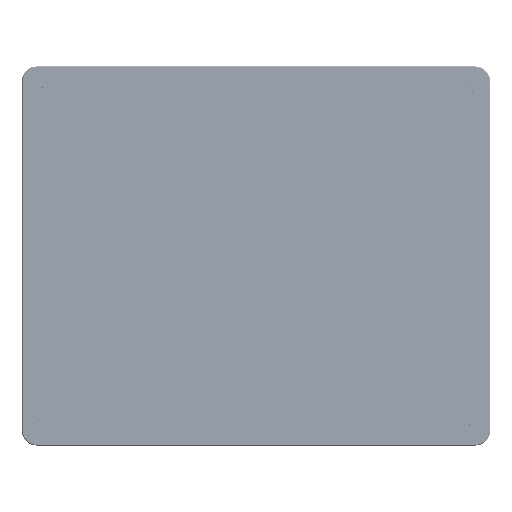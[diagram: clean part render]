
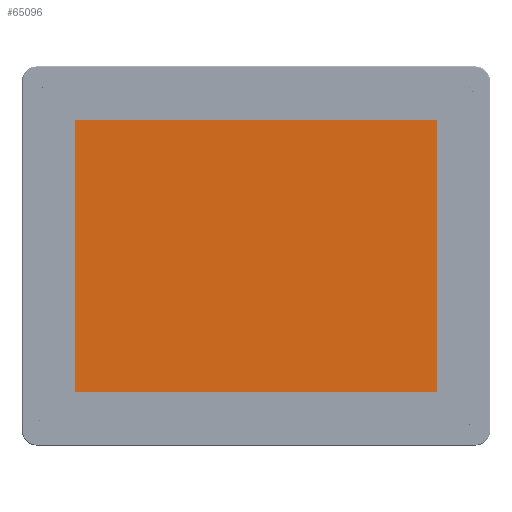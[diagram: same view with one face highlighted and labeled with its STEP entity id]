
A CAD part, top view. The second image highlights one B-rep face of the part: STEP entity #65096.
In plain terms, the highlighted planar face has unit normal (0, 0, 1).
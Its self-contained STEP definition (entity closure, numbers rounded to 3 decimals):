
#27832=LINE('',#437386,#45528);
#27833=LINE('',#437389,#45529);
#27834=LINE('',#437391,#45530);
#27835=LINE('',#437393,#45531);
#45528=VECTOR('',#301315,1.);
#45529=VECTOR('',#301316,1.);
#45530=VECTOR('',#301317,1.);
#45531=VECTOR('',#301318,1.);
#65096=ADVANCED_FACE('',(#84922),#73868,.T.);
#73868=PLANE('',#252276);
#84922=FACE_OUTER_BOUND('',#99717,.T.);
#99717=EDGE_LOOP('',(#154362,#154363,#154364,#154365));
#154362=ORIENTED_EDGE('',*,*,#220351,.T.);
#154363=ORIENTED_EDGE('',*,*,#220352,.T.);
#154364=ORIENTED_EDGE('',*,*,#220353,.T.);
#154365=ORIENTED_EDGE('',*,*,#220354,.T.);
#189434=VERTEX_POINT('',#437387);
#189435=VERTEX_POINT('',#437388);
#189436=VERTEX_POINT('',#437390);
#189437=VERTEX_POINT('',#437392);
#220351=EDGE_CURVE('',#189434,#189435,#27832,.T.);
#220352=EDGE_CURVE('',#189435,#189436,#27833,.T.);
#220353=EDGE_CURVE('',#189436,#189437,#27834,.T.);
#220354=EDGE_CURVE('',#189437,#189434,#27835,.T.);
#252276=AXIS2_PLACEMENT_3D('',#437394,#301319,#301320);
#301315=DIRECTION('',(0.,-1.,0.));
#301316=DIRECTION('',(1.,0.,0.));
#301317=DIRECTION('',(0.,1.,0.));
#301318=DIRECTION('',(-1.,0.,0.));
#301319=DIRECTION('',(0.,0.,1.));
#301320=DIRECTION('',(1.,0.,0.));
#437386=CARTESIAN_POINT('',(-163.526,92.819,14.75));
#437387=CARTESIAN_POINT('',(-163.526,92.819,14.75));
#437388=CARTESIAN_POINT('',(-163.526,-93.681,14.75));
#437389=CARTESIAN_POINT('',(-163.526,-93.681,14.75));
#437390=CARTESIAN_POINT('',(84.474,-93.681,14.75));
#437391=CARTESIAN_POINT('',(84.474,92.819,14.75));
#437392=CARTESIAN_POINT('',(84.474,92.819,14.75));
#437393=CARTESIAN_POINT('',(-163.526,92.819,14.75));
#437394=CARTESIAN_POINT('',(5432.622,-411.142,14.75));
